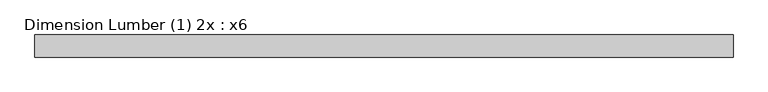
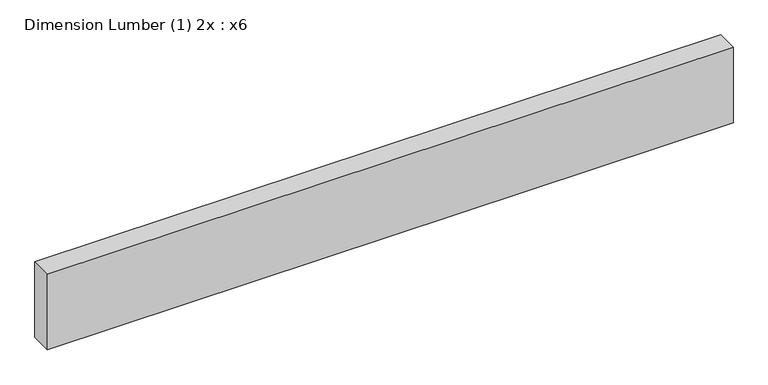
"""IFC4 building model written with IfcOpenShell, lengths in millimetres: beam geometry, Dimension Lumber (1) 2x : x6."""

from ifc_helpers import new_model, si_unit, frame, origin, place, context, project, spatial, polyline, outline, extrude, source, transform, mapped, element, save


def dimension_lumber_1_2x_x6_c52428c3(model_context):
    return source(origin(), model_context, "Body", "SweptSolid", [
        extrude(outline(polyline([(574.2575614, 19.05), (574.2575614, -19.05), (-628.1390981, -19.05), (-628.1390981, 19.05), (574.2575614, 19.05)])), frame((0.0, 0.0, -69.85), z_axis=(0.0, 0.0, 1.0), x_axis=(1.0, 0.0, 0.0)), (0.0, 0.0, 1.0), 139.7),
    ])


if __name__ == "__main__":
    model = new_model("IFC4")
    model_context = context("Model", 3, world=origin())
    ifc_project = project(units=[si_unit("LENGTHUNIT", "METRE", prefix="MILLI")], contexts=[model_context])
    site = spatial("IfcSite", under=ifc_project)
    building = spatial("IfcBuilding", under=site)
    placement = place(None, origin())
    dimension_lumber_1_2x_x6_shape = dimension_lumber_1_2x_x6_c52428c3(model_context)
    element("IfcBeam", 1, ObjectType="Dimension Lumber (1) 2x : x6", at=placement, inside=building, context=model_context, shape_type="MappedRepresentation", body=[
        mapped(dimension_lumber_1_2x_x6_shape, transform((0.0, 0.0, 0.0), x_axis=(1.0, 0.0, 0.0), y_axis=(0.0, 1.0, 0.0), z_axis=(0.0, 0.0, 1.0))),
    ])
    save(model, "model.ifc")
